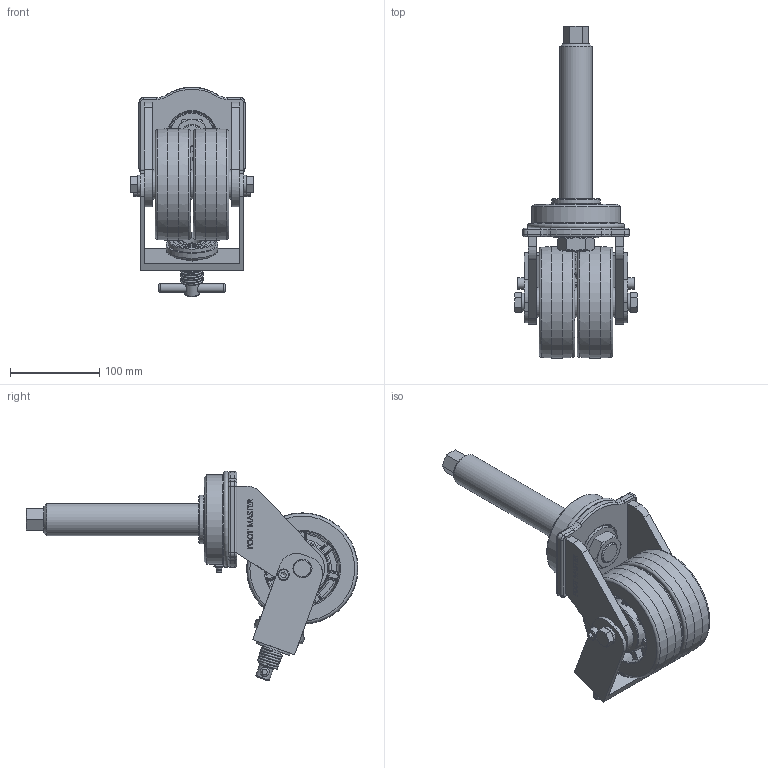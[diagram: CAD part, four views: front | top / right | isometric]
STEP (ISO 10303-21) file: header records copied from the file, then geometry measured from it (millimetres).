
FILE_DESCRIPTION(/* description */ (''),/* implementation_level */ '2;1');
FILE_NAME(/* name */ 'C:\Users\admin\Desktop\업무폴더\일자별 업무\2024\03월\03.08\홈페이지용 3D\3D\GXTT-125-BSS-HUD-PTR36x174L.stp',/* time_stamp */ '2024-03-13T11:31:56+09:00',/* author */ ('admin'),/* organization */ (''),/* preprocessor_version */ 'ST-DEVELOPER v18.1',/* originating_system */ 'Autodesk Inventor 2021',/* authorisation */ '');
FILE_SCHEMA (('CONFIG_CONTROL_DESIGN'));
Length unit declared in the file: millimetre
Products named in the file (1): GXTT-125-BSS-HUD-PTR36x174L_2
Bounding box: 138 x 372.5 x 235.31 mm (x, y, z)
Volume: 1641623.6 mm3; surface area: 258000.2 mm2
Topology: 4 solids, 4 shells, 1304 faces, 3093 edges, 1871 vertices
Faces by surface type: plane 461, bspline 427, cylinder 182, torus 161, cone 73
Full cylindrical faces by diameter (mm): 1 x1, 6.647 x2, 8 x2, 9 x2, 9.8 x1, 10 x1, 10.2 x1, 11.8 x1, 12 x1, 12.2 x1, 13 x2, 16 x1, 20 x1, 20.6 x2, 21 x1, 24 x1, 32 x1, 33 x3, 36 x2, 40 x1, 42 x1, 50 x1, 54 x2, 58 x1, 60 x1, 85 x1, 100 x1, 125 x2
Entity records: 49597 total; most frequent: CARTESIAN_POINT 21414, ORIENTED_EDGE 6180, DIRECTION 5382, EDGE_CURVE 3090, AXIS2_PLACEMENT_3D 2151, VERTEX_POINT 1871, EDGE_LOOP 1393, FACE_OUTER_BOUND 1304
